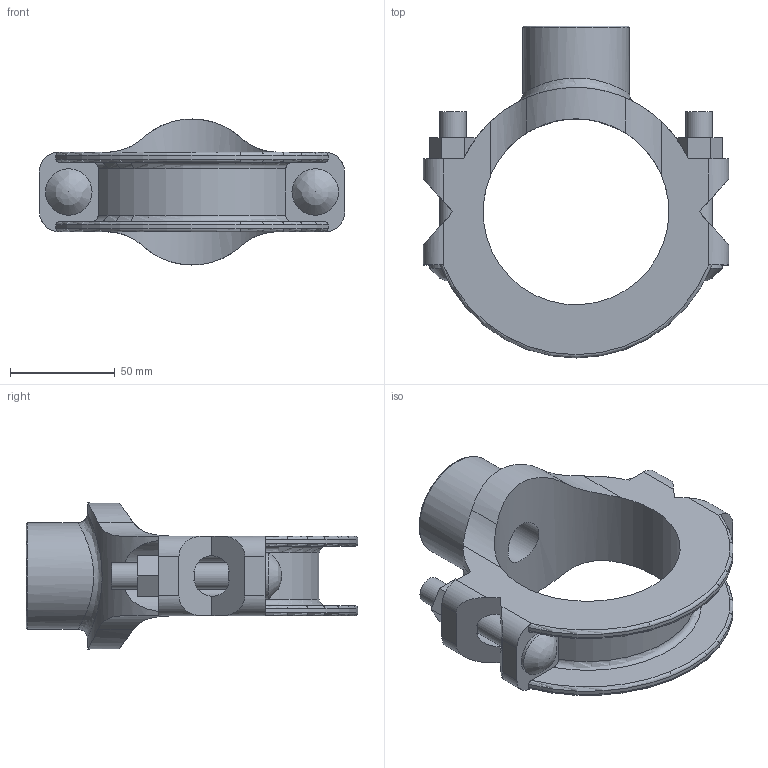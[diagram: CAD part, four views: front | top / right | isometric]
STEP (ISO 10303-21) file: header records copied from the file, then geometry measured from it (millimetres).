
FILE_DESCRIPTION(/* description */ ('VIC SS MECHANICAL T BRANCH OUTLET STYLE 422 (BSPP)','CAx-IF Rec.Pracs.---Representation and Presentation of Product Manufacturing Information (PMI)---4.0---2014-10-13'),/* implementation_level */ '2;1');
FILE_NAME(/* name */ 'C:\Files for Export\422\STEP\Victaulic_SS-OGS_Mech-Tee Out_Style 422 (BSPP)\Victaulic_SS-OGS_Mech-Tee Out_Style 422 (BSPP)_03.0x0.75 (80x20).stp',/* time_stamp */ '2023-03-28T14:24:06+02:00',/* author */ ('jheald'),/* organization */ ('Victaulic'),/* preprocessor_version */ 'ST-DEVELOPER v18.1',/* originating_system */ 'Autodesk Inventor 2020',/* authorisation */ '');
FILE_SCHEMA (('AP242_MANAGED_MODEL_BASED_3D_ENGINEERING_MIM_LF { 1 0 10303 442 1 1 4 }'));
Length unit declared in the file: inch
Products named in the file (1): 422-03.0x0.75
Bounding box: 146.05 x 158.75 x 69.85 mm (x, y, z)
Volume: 280722 mm3; surface area: 69963.8 mm2
Topology: 1 solids, 1 shells, 88 faces, 266 edges, 180 vertices
Faces by surface type: plane 44, cylinder 34, torus 7, bspline 3
Full cylindrical faces by diameter (mm): 12.7 x4, 20.93 x1, 22.225 x2, 26.67 x1, 50.8 x1, 88.9 x1
Entity records: 3788 total; most frequent: CARTESIAN_POINT 1156, ORIENTED_EDGE 528, DIRECTION 520, EDGE_CURVE 264, AXIS2_PLACEMENT_3D 190, VERTEX_POINT 180, LINE 140, VECTOR 140
